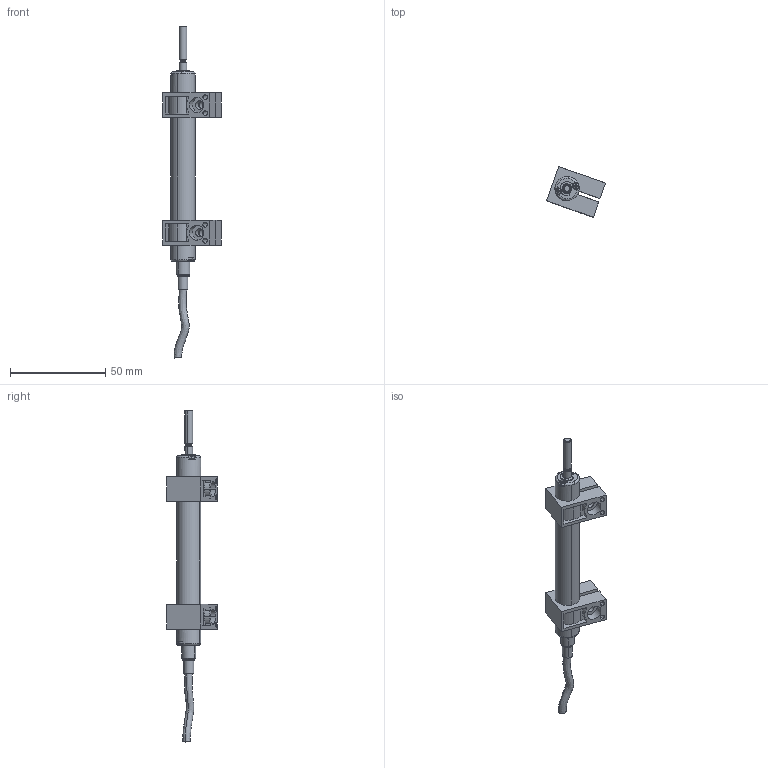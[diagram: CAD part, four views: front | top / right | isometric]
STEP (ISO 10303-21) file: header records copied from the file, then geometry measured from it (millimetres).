
FILE_DESCRIPTION(('STEP AP203'),'1');
FILE_NAME('C:/TPO v2/SharedFS/Outgoing/burster_8709-5050_aa1da2736yetsf72xotpd65u7.stp','2013-08-27T15:05:19',('TraceParts'),('TraceParts S.A.'),'XStep 1.0',' ',' ');
FILE_SCHEMA(('CONFIG_CONTROL_DESIGN'));
Length unit declared in the file: millimetre
Products named in the file (1): 1
Bounding box: 30.86 x 26.61 x 174.2 mm (x, y, z)
Volume: 19843 mm3; surface area: 11267.6 mm2
Topology: 1 solids, 6 shells, 424 faces, 1122 edges, 728 vertices
Faces by surface type: plane 195, cylinder 123, cone 84, torus 12, sphere 8, bspline 2
Entity records: 14085 total; most frequent: CARTESIAN_POINT 3253, DIRECTION 2407, ORIENTED_EDGE 2244, EDGE_CURVE 1122, AXIS2_PLACEMENT_3D 964, VERTEX_POINT 728, CIRCLE 525, LINE 479
